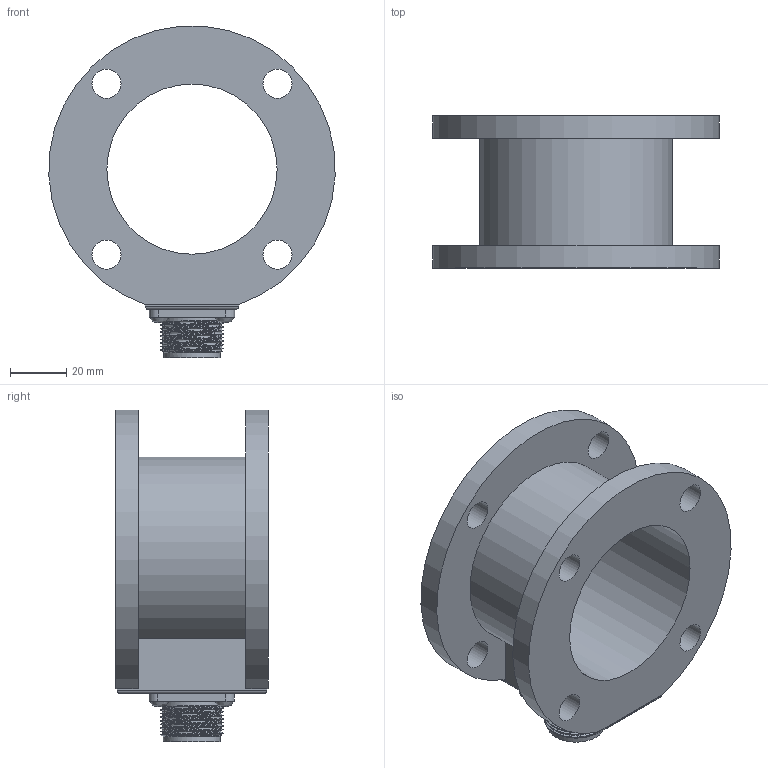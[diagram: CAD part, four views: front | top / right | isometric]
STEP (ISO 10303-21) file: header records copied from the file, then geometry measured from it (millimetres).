
FILE_DESCRIPTION (( 'STEP AP203' ), '1' );
FILE_NAME ('80503.STEP', '2018-11-16T13:33:32', ( '' ), ( '' ), 'SwSTEP 2.0', 'SolidWorks 2018', '' );
FILE_SCHEMA (( 'CONFIG_CONTROL_DESIGN' ));
Length unit declared in the file: inch
Products named in the file (1): 80503
Bounding box: 101.49 x 53.98 x 117.42 mm (x, y, z)
Volume: 134302.4 mm3; surface area: 47022.6 mm2
Topology: 1 solids, 5 shells, 210 faces, 553 edges, 365 vertices
Faces by surface type: plane 122, cylinder 46, bspline 34, sphere 6, cone 2
Full cylindrical faces by diameter (mm): 1.778 x6, 3.505 x4, 3.658 x4, 10.312 x8, 17.653 x1, 20.244 x1, 22.225 x8, 60.338 x1
Entity records: 8936 total; most frequent: CARTESIAN_POINT 4430, ORIENTED_EDGE 912, DIRECTION 778, EDGE_CURVE 456, VERTEX_POINT 320, LINE 292, VECTOR 292, EDGE_LOOP 284
